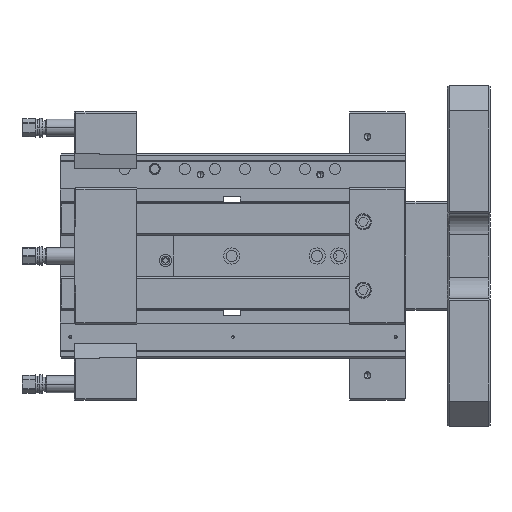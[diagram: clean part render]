
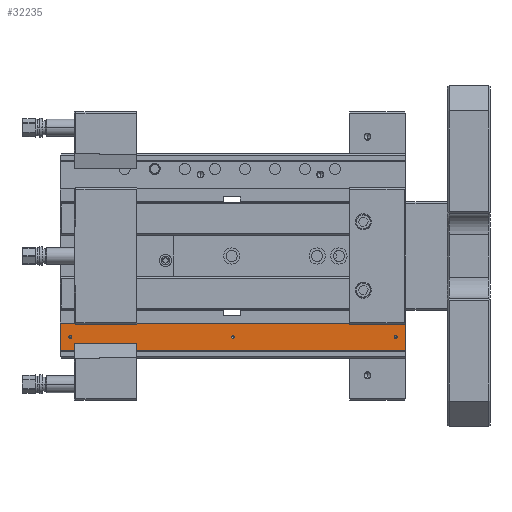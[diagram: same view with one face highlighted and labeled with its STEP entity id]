
A CAD part, left-side view. The second image highlights one B-rep face of the part: STEP entity #32235.
In plain terms, the highlighted planar face has unit normal (-1, 0, 0).
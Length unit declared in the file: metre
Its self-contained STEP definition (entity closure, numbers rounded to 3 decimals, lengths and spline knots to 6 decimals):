
#10062=DIRECTION('',(0.,1.,0.));
#10063=VECTOR('',#10062,0.405);
#10064=CARTESIAN_POINT('',(0.144,0.0985,-0.3107));
#10065=LINE('',#10064,#10063);
#10070=CARTESIAN_POINT('',(0.144,0.4915,-0.295));
#10071=DIRECTION('',(1.,0.,0.));
#10072=DIRECTION('',(0.,0.,1.));
#10073=AXIS2_PLACEMENT_3D('',#10070,#10071,#10072);
#10075=CARTESIAN_POINT('',(0.144,0.4915,-0.295));
#10076=DIRECTION('',(1.,0.,0.));
#10077=DIRECTION('',(0.,0.,-1.));
#10078=AXIS2_PLACEMENT_3D('',#10075,#10076,#10077);
#10080=CARTESIAN_POINT('',(0.144,0.1105,-0.295));
#10081=DIRECTION('',(1.,0.,0.));
#10082=DIRECTION('',(0.,0.,1.));
#10083=AXIS2_PLACEMENT_3D('',#10080,#10081,#10082);
#10085=CARTESIAN_POINT('',(0.144,0.1105,-0.295));
#10086=DIRECTION('',(1.,0.,0.));
#10087=DIRECTION('',(0.,0.,-1.));
#10088=AXIS2_PLACEMENT_3D('',#10085,#10086,#10087);
#10090=CARTESIAN_POINT('',(0.144,0.301,-0.295));
#10091=DIRECTION('',(1.,0.,0.));
#10092=DIRECTION('',(0.,0.,1.));
#10093=AXIS2_PLACEMENT_3D('',#10090,#10091,#10092);
#10095=CARTESIAN_POINT('',(0.144,0.301,-0.295));
#10096=DIRECTION('',(1.,0.,0.));
#10097=DIRECTION('',(0.,0.,-1.));
#10098=AXIS2_PLACEMENT_3D('',#10095,#10096,#10097);
#10100=DIRECTION('',(0.,0.,1.));
#10101=VECTOR('',#10100,0.0322);
#10102=CARTESIAN_POINT('',(0.144,0.0985,-0.3107));
#10103=LINE('',#10102,#10101);
#10104=DIRECTION('',(0.,0.,-1.));
#10105=VECTOR('',#10104,0.0322);
#10106=CARTESIAN_POINT('',(0.144,0.5035,-0.2785));
#10107=LINE('',#10106,#10105);
#10194=DIRECTION('',(0.,-1.,0.));
#10195=VECTOR('',#10194,0.405);
#10196=CARTESIAN_POINT('',(0.144,0.5035,-0.2785));
#10197=LINE('',#10196,#10195);
#16027=CARTESIAN_POINT('',(0.144,0.0985,-0.3107));
#16028=VERTEX_POINT('',#16027);
#16029=CARTESIAN_POINT('',(0.144,0.0985,-0.2785));
#16030=VERTEX_POINT('',#16029);
#16243=CARTESIAN_POINT('',(0.144,0.5035,-0.2785));
#16244=VERTEX_POINT('',#16243);
#16245=CARTESIAN_POINT('',(0.144,0.5035,-0.3107));
#16246=VERTEX_POINT('',#16245);
#16249=CARTESIAN_POINT('',(0.144,0.301,-0.29665));
#16250=CARTESIAN_POINT('',(0.144,0.301,-0.29335));
#16251=VERTEX_POINT('',#16249);
#16252=VERTEX_POINT('',#16250);
#16253=CARTESIAN_POINT('',(0.144,0.1105,-0.29665));
#16254=CARTESIAN_POINT('',(0.144,0.1105,-0.29335));
#16255=VERTEX_POINT('',#16253);
#16256=VERTEX_POINT('',#16254);
#16257=CARTESIAN_POINT('',(0.144,0.4915,-0.29665));
#16258=CARTESIAN_POINT('',(0.144,0.4915,-0.29335));
#16259=VERTEX_POINT('',#16257);
#16260=VERTEX_POINT('',#16258);
#32205=CARTESIAN_POINT('',(0.144,0.058,-0.2785));
#32206=DIRECTION('',(1.,0.,0.));
#32207=DIRECTION('',(0.,0.,-1.));
#32208=AXIS2_PLACEMENT_3D('',#32205,#32206,#32207);
#32209=PLANE('',#32208);
#32211=ORIENTED_EDGE('',*,*,#32210,.T.);
#32212=ORIENTED_EDGE('',*,*,#20522,.F.);
#32213=ORIENTED_EDGE('',*,*,#32197,.T.);
#32214=ORIENTED_EDGE('',*,*,#20437,.F.);
#32215=EDGE_LOOP('',(#32211,#32212,#32213,#32214));
#32216=FACE_OUTER_BOUND('',#32215,.F.);
#32218=ORIENTED_EDGE('',*,*,#32217,.F.);
#32220=ORIENTED_EDGE('',*,*,#32219,.F.);
#32221=EDGE_LOOP('',(#32218,#32220));
#32222=FACE_BOUND('',#32221,.F.);
#32224=ORIENTED_EDGE('',*,*,#32223,.F.);
#32226=ORIENTED_EDGE('',*,*,#32225,.F.);
#32227=EDGE_LOOP('',(#32224,#32226));
#32228=FACE_BOUND('',#32227,.F.);
#32230=ORIENTED_EDGE('',*,*,#32229,.F.);
#32232=ORIENTED_EDGE('',*,*,#32231,.F.);
#32233=EDGE_LOOP('',(#32230,#32232));
#32234=FACE_BOUND('',#32233,.F.);
#32235=ADVANCED_FACE('',(#32216,#32222,#32228,#32234),#32209,.F.);
#10074=CIRCLE('',#10073,0.00165);
#10079=CIRCLE('',#10078,0.00165);
#10084=CIRCLE('',#10083,0.00165);
#10089=CIRCLE('',#10088,0.00165);
#10094=CIRCLE('',#10093,0.00165);
#10099=CIRCLE('',#10098,0.00165);
#20437=EDGE_CURVE('',#16244,#16246,#10107,.T.);
#20522=EDGE_CURVE('',#16028,#16030,#10103,.T.);
#32197=EDGE_CURVE('',#16028,#16246,#10065,.T.);
#32210=EDGE_CURVE('',#16244,#16030,#10197,.T.);
#32217=EDGE_CURVE('',#16256,#16255,#10084,.T.);
#32219=EDGE_CURVE('',#16255,#16256,#10089,.T.);
#32223=EDGE_CURVE('',#16252,#16251,#10094,.T.);
#32225=EDGE_CURVE('',#16251,#16252,#10099,.T.);
#32229=EDGE_CURVE('',#16260,#16259,#10074,.T.);
#32231=EDGE_CURVE('',#16259,#16260,#10079,.T.);
